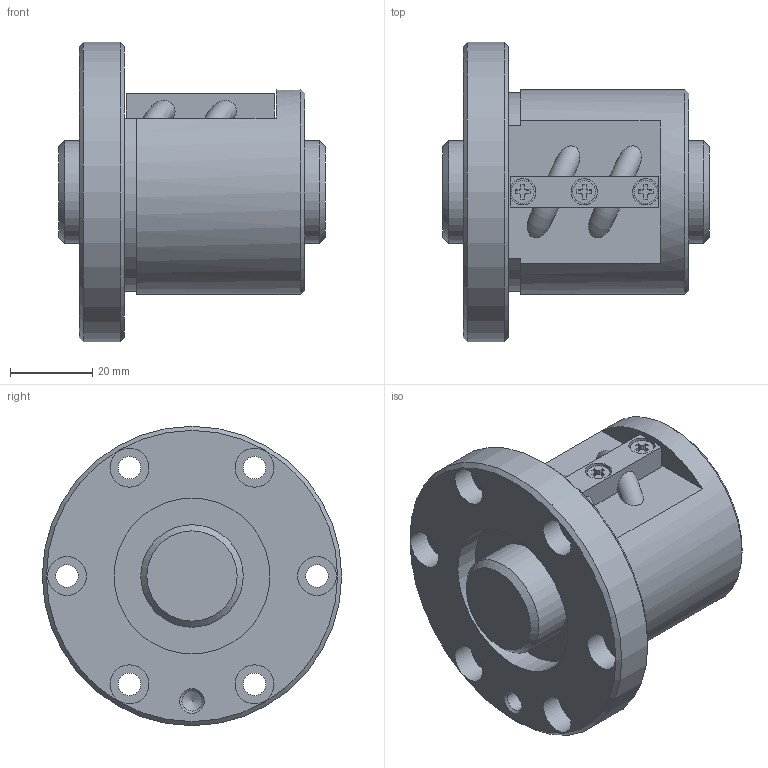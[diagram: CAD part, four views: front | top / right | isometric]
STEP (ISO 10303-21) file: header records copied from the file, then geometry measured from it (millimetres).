
FILE_DESCRIPTION(/* description */ ('STEP AP203'),/* implementation_level */ '2;1');
FILE_NAME(/* name */ 'SBN2505V-5G0+65LC0(0000)',/* time_stamp */ '2024-05-28T10:24:29+02:00',/* author */ ('License CC BY-ND 4.0'),/* organization */ ('CADENAS'),/* preprocessor_version */ 'ST-DEVELOPER v19.3',/* originating_system */ 'PARTsolutions',/* authorisation */ ' ');
FILE_SCHEMA (('CONFIG_CONTROL_DESIGN'));
Length unit declared in the file: millimetre
Products named in the file (3): SBN2505V-5G0+65LC0(0000); N010SBN2505V-50Shaft; N00SBN2505V-5Nut
Assembly tree (2 placements, depth 2):
  SBN2505V-5G0+65LC0(0000)
    N010SBN2505V-50Shaft
    N00SBN2505V-5Nut
Bounding box: 65 x 73 x 73 mm (x, y, z)
Volume: 121225.6 mm3; surface area: 29874.7 mm2
Topology: 2 solids, 2 shells, 121 faces, 285 edges, 188 vertices
Faces by surface type: plane 69, cylinder 41, cone 7, torus 4
Full cylindrical faces by diameter (mm): 4.8 x3, 4.917 x1, 5.5 x6, 5.6 x3, 6.4 x1, 9.5 x6, 25 x2, 38 x2, 50 x1, 73 x1
Entity records: 3477 total; most frequent: CARTESIAN_POINT 657, DIRECTION 578, ORIENTED_EDGE 498, EDGE_CURVE 249, AXIS2_PLACEMENT_3D 213, FACE_BOUND 189, EDGE_LOOP 188, VERTEX_POINT 186
